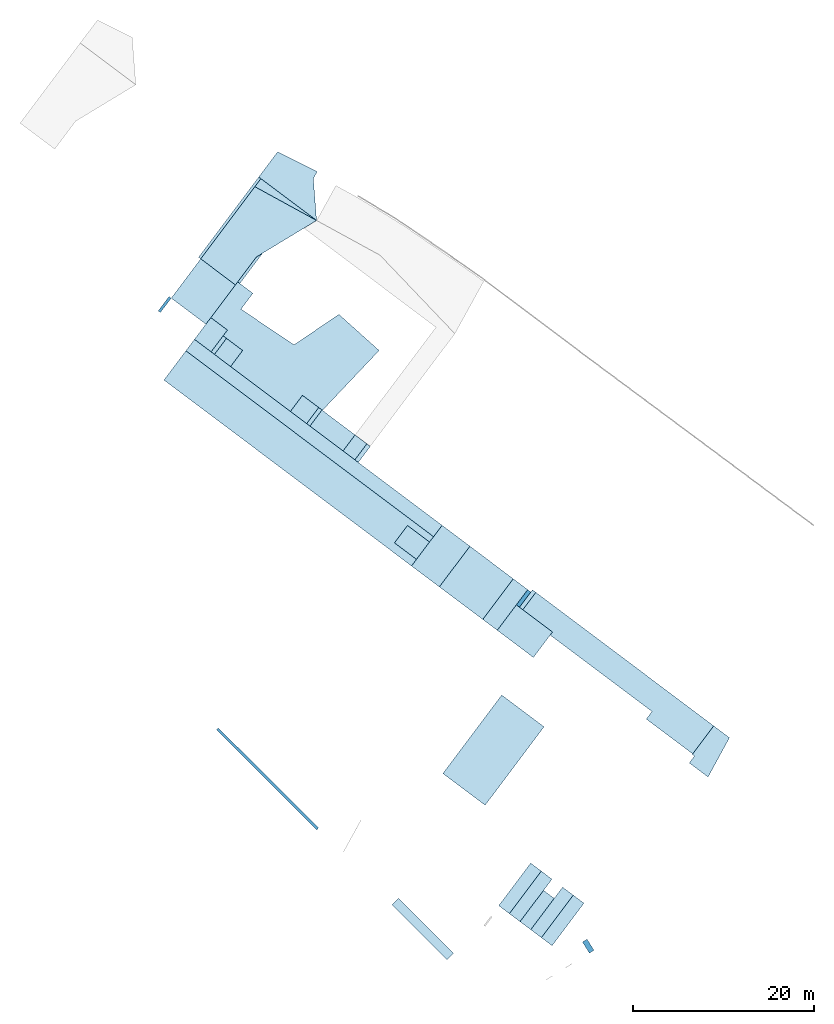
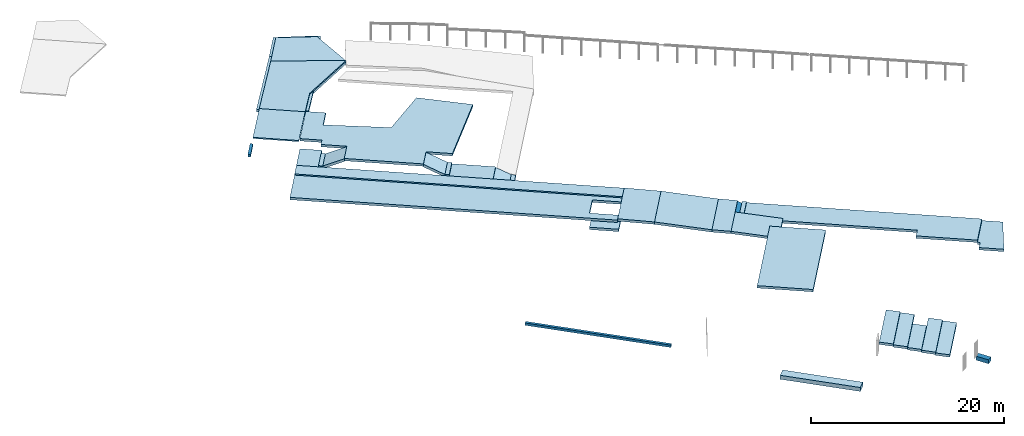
# One storey, part 11 of 12: 35 slabs.
"""IFC2X3 building model written with IfcOpenShell, lengths in metres."""

from ifc_helpers import new_model, entity, si_unit, converted_unit, derived_unit, direction, frame, frame_2d, origin, origin_2d_with_axis, place, context, subcontext, project, spatial, polyline, rectangle, outline, extrude, clip, halfspace, material, layer, layer_set, layer_usage, type_object, element, save


model = new_model("IFC2X3")

# Units and contexts
model_context = context("Model", 3, precision=1e-05, world=origin(), true_north=direction((6.123031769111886e-17, 1.0)))
body_context = subcontext(model_context, "Body", "Model", "MODEL_VIEW")
ifc_project = project(units=[si_unit("LENGTHUNIT", "METRE"), si_unit("AREAUNIT", "SQUARE_METRE"), si_unit("VOLUMEUNIT", "CUBIC_METRE"), converted_unit("PLANEANGLEUNIT", "DEGREE", entity("IfcRatioMeasure", 0.017453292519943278), si_unit("PLANEANGLEUNIT", "RADIAN"), dimensions=[0, 0, 0, 0, 0, 0, 0]), si_unit("MASSUNIT", "GRAM", prefix="KILO"), derived_unit("MASSDENSITYUNIT", [(si_unit("MASSUNIT", "GRAM", prefix="KILO"), 1), (si_unit("LENGTHUNIT", "METRE"), -3)]), derived_unit("IONCONCENTRATIONUNIT", [(si_unit("MASSUNIT", "GRAM", prefix="KILO"), 1), (si_unit("LENGTHUNIT", "METRE"), -3)]), derived_unit("MOMENTOFINERTIAUNIT", [(si_unit("LENGTHUNIT", "METRE"), 4)]), si_unit("TIMEUNIT", "SECOND"), si_unit("FREQUENCYUNIT", "HERTZ"), si_unit("THERMODYNAMICTEMPERATUREUNIT", "DEGREE_CELSIUS"), derived_unit("THERMALTRANSMITTANCEUNIT", [(si_unit("MASSUNIT", "GRAM", prefix="KILO"), 1), (si_unit("THERMODYNAMICTEMPERATUREUNIT", "KELVIN"), -1), (si_unit("TIMEUNIT", "SECOND"), -3)]), derived_unit("THERMALCONDUCTANCEUNIT", [(si_unit("MASSUNIT", "GRAM", prefix="KILO"), 1), (si_unit("THERMODYNAMICTEMPERATUREUNIT", "KELVIN"), -1), (si_unit("TIMEUNIT", "SECOND"), -3), (si_unit("LENGTHUNIT", "METRE"), 1)]), derived_unit("VOLUMETRICFLOWRATEUNIT", [(si_unit("LENGTHUNIT", "METRE"), 3), (si_unit("TIMEUNIT", "SECOND"), -1)]), derived_unit("MASSFLOWRATEUNIT", [(si_unit("MASSUNIT", "GRAM", prefix="KILO"), 1), (si_unit("TIMEUNIT", "SECOND"), -1)]), derived_unit("ROTATIONALFREQUENCYUNIT", [(si_unit("TIMEUNIT", "SECOND"), -1)]), si_unit("ELECTRICCURRENTUNIT", "AMPERE"), si_unit("ELECTRICVOLTAGEUNIT", "VOLT"), si_unit("POWERUNIT", "WATT"), si_unit("FORCEUNIT", "NEWTON", prefix="KILO"), si_unit("ILLUMINANCEUNIT", "LUX"), si_unit("LUMINOUSFLUXUNIT", "LUMEN"), si_unit("LUMINOUSINTENSITYUNIT", "CANDELA"), derived_unit("USERDEFINED", [(si_unit("MASSUNIT", "GRAM", prefix="KILO"), -1), (si_unit("LENGTHUNIT", "METRE"), -2), (si_unit("TIMEUNIT", "SECOND"), 3), (si_unit("LUMINOUSFLUXUNIT", "LUMEN"), 1)]), derived_unit("USERDEFINED", [(si_unit("MASSUNIT", "GRAM", prefix="KILO"), 1), (si_unit("TIMEUNIT", "SECOND"), -3), (si_unit("LENGTHUNIT", "METRE"), 3), (si_unit("ELECTRICCURRENTUNIT", "AMPERE"), -2)]), derived_unit("SOUNDPOWERUNIT", [(si_unit("MASSUNIT", "GRAM", prefix="KILO"), 1), (si_unit("TIMEUNIT", "SECOND"), -3), (si_unit("LENGTHUNIT", "METRE"), 2)]), derived_unit("SOUNDPRESSUREUNIT", [(si_unit("MASSUNIT", "GRAM", prefix="KILO"), 1), (si_unit("LENGTHUNIT", "METRE"), -1), (si_unit("TIMEUNIT", "SECOND"), -2)]), derived_unit("LINEARVELOCITYUNIT", [(si_unit("LENGTHUNIT", "METRE"), 1), (si_unit("TIMEUNIT", "SECOND"), -1)]), si_unit("PRESSUREUNIT", "PASCAL"), derived_unit("USERDEFINED", [(si_unit("MASSUNIT", "GRAM", prefix="KILO"), 1), (si_unit("LENGTHUNIT", "METRE"), -2), (si_unit("TIMEUNIT", "SECOND"), -2)]), derived_unit("LINEARFORCEUNIT", [(si_unit("MASSUNIT", "GRAM", prefix="KILO"), 1), (si_unit("TIMEUNIT", "SECOND"), -2)]), derived_unit("PLANARFORCEUNIT", [(si_unit("MASSUNIT", "GRAM", prefix="KILO"), 1), (si_unit("LENGTHUNIT", "METRE"), -1), (si_unit("TIMEUNIT", "SECOND"), -2)]), derived_unit("SPECIFICHEATCAPACITYUNIT", [(si_unit("THERMODYNAMICTEMPERATUREUNIT", "KELVIN"), -1), (si_unit("LENGTHUNIT", "METRE"), 2), (si_unit("TIMEUNIT", "SECOND"), -2)]), derived_unit("HEATINGVALUEUNIT", [(si_unit("LENGTHUNIT", "METRE"), 2), (si_unit("TIMEUNIT", "SECOND"), -2)]), derived_unit("VAPORPERMEABILITYUNIT", [(si_unit("LENGTHUNIT", "METRE"), -1), (si_unit("TIMEUNIT", "SECOND"), 1)]), derived_unit("DYNAMICVISCOSITYUNIT", [(si_unit("MASSUNIT", "GRAM", prefix="KILO"), 1), (si_unit("TIMEUNIT", "SECOND"), -1), (si_unit("LENGTHUNIT", "METRE"), -1)]), derived_unit("THERMALEXPANSIONCOEFFICIENTUNIT", [(si_unit("THERMODYNAMICTEMPERATUREUNIT", "KELVIN"), -1)]), derived_unit("MODULUSOFELASTICITYUNIT", [(si_unit("MASSUNIT", "GRAM", prefix="KILO"), 1), (si_unit("LENGTHUNIT", "METRE"), -1), (si_unit("TIMEUNIT", "SECOND"), -2)]), derived_unit("ISOTHERMALMOISTURECAPACITYUNIT", [(si_unit("LENGTHUNIT", "METRE"), 3), (si_unit("MASSUNIT", "GRAM", prefix="KILO"), -1)]), derived_unit("MOISTUREDIFFUSIVITYUNIT", [(si_unit("TIMEUNIT", "SECOND"), -1), (si_unit("LENGTHUNIT", "METRE"), 2)])], contexts=[model_context])

# Site, building, storey
site_placement = place(None, origin())
site = spatial("IfcSite", under=ifc_project, at=site_placement, Name="Superficie", CompositionType="ELEMENT")
building_placement = place(site_placement, frame((0.0, 0.0, 235.0), z_axis=(0.0, 0.0, 1.0), x_axis=(-0.7996477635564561, 0.6004693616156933, 0.0)))
building = spatial("IfcBuilding", under=site, at=building_placement, CompositionType="ELEMENT")
storey_placement = place(building_placement, frame((0.0, 0.0, -4.459999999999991)))
storey = spatial("IfcBuildingStorey", under=building, at=storey_placement, Name="PS1- Vestuari", CompositionType="ELEMENT", Elevation=-4.459999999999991)

# Slabs
ifc_material_1 = material(Name="_Topografia- Plataformes")
ifc_layer_1 = layer(ifc_material_1, 0.29999999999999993)
ifc_layer_set_1 = layer_set([ifc_layer_1], Name="Plataforma:300 mm")
ifc_layer_usage_1 = layer_usage(ifc_layer_set_1, "AXIS3", "POSITIVE", 0.0)
slab_type_1 = type_object("IfcSlabType", Name="Plataforma:300 mm", PredefinedType="FLOOR", material=ifc_layer_set_1)
slab_1_placement = place(storey_placement, origin())
element("IfcSlab", 1, at=slab_1_placement, inside=storey, type_object=slab_type_1, material=ifc_layer_usage_1, Name="Plataforma:300 mm", ObjectType="Plataforma:300 mm", PredefinedType="FLOOR", context=body_context, shape_type="SweptSolid", body=[
    extrude(outline(polyline([(-24.924999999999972, -2.0675000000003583), (9.324999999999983, -2.0675000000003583), (9.32499999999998, -1.157499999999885), (6.274999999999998, -1.1574999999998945), (6.274999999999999, 1.2425000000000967), (9.324999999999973, 1.2425000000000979), (9.32499999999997, 1.9825000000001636), (-24.924999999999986, 1.9825000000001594), (-24.924999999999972, -2.0675000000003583)])), frame((49.820147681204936, -38.48269175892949, -0.6499999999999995), z_axis=(0.0, 0.0, 1.0), x_axis=(-1.0, 0.0, 0.0)), (0.0, 0.0, 1.0), 0.2999999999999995),
])
slab_2_placement = place(storey_placement, origin())
element("IfcSlab", 2, at=slab_2_placement, inside=storey, type_object=slab_type_1, material=ifc_layer_usage_1, Name="Plataforma:300 mm", ObjectType="Plataforma:300 mm", PredefinedType="FLOOR", context=body_context, shape_type="SweptSolid", body=[
    extrude(outline(polyline([(-7.407363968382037, -1.0493705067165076), (-8.834956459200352, -6.811783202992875), (-8.841941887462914, -6.859278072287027), (0.06765017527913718, -8.810959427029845), (0.9613124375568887, -6.202928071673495), (3.061508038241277, -6.9225764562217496), (5.743247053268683, 0.9037128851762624), (3.643118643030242, 1.6233382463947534), (4.518338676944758, 4.177548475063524), (3.770995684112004, 4.4336313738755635), (4.516553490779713, 6.609440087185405), (-0.16822201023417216, 8.214714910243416), (-0.8489487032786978, 6.228106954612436), (1.2298998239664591, 5.5157733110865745), (-1.411190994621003, -1.0493705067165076), (-7.407363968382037, -1.0493705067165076)])), frame((67.0285263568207, -47.1803816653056, 0.7900000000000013), z_axis=(0.0, 0.0, -1.0), x_axis=(0.3241555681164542, 0.9460037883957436, 0.0)), (0.0, 0.0, -1.0), 0.30000000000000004),
])
slab_3_placement = place(storey_placement, origin())
element("IfcSlab", 3, at=slab_3_placement, inside=storey, type_object=slab_type_1, material=ifc_layer_usage_1, Name="Plataforma:300 mm", ObjectType="Plataforma:300 mm", PredefinedType="FLOOR", context=body_context, shape_type="SweptSolid", body=[
    extrude(rectangle(XDim=2.220072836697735, YDim=0.4739690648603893, at=origin_2d_with_axis()), frame((52.32335128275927, -43.15022636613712, -1.3499999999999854), z_axis=(0.0, 0.0, 1.0), x_axis=(0.0, -1.0, 0.0)), (0.0, 0.0, 1.0), 0.30000000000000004),
])
slab_4_placement = place(storey_placement, frame((71.84163854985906, -60.66937321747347, -0.101242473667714)))
element("IfcSlab", 4, at=slab_4_placement, inside=storey, type_object=slab_type_1, material=ifc_layer_usage_1, Name="Plataforma:300 mm", ObjectType="Plataforma:300 mm", PredefinedType="FLOOR", context=body_context, shape_type="SweptSolid", body=[
    extrude(outline(polyline([(2.5498951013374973, -11.133222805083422), (2.5498951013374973, 0.0), (-2.549895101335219, 0.0), (-2.549895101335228, -0.42370380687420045), (-2.8498951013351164, -0.42370380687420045), (-2.849895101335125, -4.624271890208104), (-5.453404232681, -11.133222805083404), (2.5498951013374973, -11.133222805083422)])), frame((5.453404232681, 11.089029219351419, 1.2921956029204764), z_axis=(0.0, -0.08901285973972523, 0.9960304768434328), x_axis=(1.0, 0.0, 0.0)), (0.0, -0.08901285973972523, -0.9960304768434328), 0.3011956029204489),
])
slab_5_placement = place(storey_placement, origin())
element("IfcSlab", 5, at=slab_5_placement, inside=storey, type_object=slab_type_1, material=ifc_layer_usage_1, Name="Plataforma:300 mm", ObjectType="Plataforma:300 mm", PredefinedType="FLOOR", context=body_context, shape_type="SweptSolid", body=[
    extrude(outline(polyline([(-3.39937513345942, -2.5532429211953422), (4.6039083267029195, -2.5532429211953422), (1.5291539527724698, 0.9470054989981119), (1.4073205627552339, 1.8102338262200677), (-0.741632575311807, 1.4246187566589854), (-3.3993751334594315, 0.9246277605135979), (-3.39937513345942, -2.5532429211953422)])), frame((76.44554687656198, -63.222616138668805, -0.09999999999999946), z_axis=(0.0, 0.0, 1.0), x_axis=(-1.0, 0.0, 0.0)), (0.0, 0.0, 1.0), 0.30000000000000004),
])
slab_6_placement = place(storey_placement, origin())
element("IfcSlab", 6, at=slab_6_placement, inside=storey, type_object=slab_type_1, material=ifc_layer_usage_1, Name="Plataforma:300 mm", ObjectType="Plataforma:300 mm", PredefinedType="FLOOR", context=body_context, shape_type="SweptSolid", body=[
    extrude(rectangle(XDim=3.01, YDim=2.2999999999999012, at=frame_2d((4.3298697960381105e-15, -4.3298697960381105e-15), x_axis=(1.0, 0.0))), frame((73.5951476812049, -43.54519175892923, -0.5), z_axis=(0.0, 0.0, 1.0), x_axis=(0.0, 1.0, 0.0)), (0.0, 0.0, 1.0), 0.30000000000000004),
])
slab_7_placement = place(storey_placement, frame((2.8451476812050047, -18.040191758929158, 2.3105622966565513)))
element("IfcSlab", 7, at=slab_7_placement, inside=storey, type_object=slab_type_1, material=ifc_layer_usage_1, Name="Plataforma:300 mm", ObjectType="Plataforma:300 mm", PredefinedType="FLOOR", context=body_context, shape_type="SweptSolid", body=[
    extrude(rectangle(XDim=5.8750000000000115, YDim=1.4807156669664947, at=frame_2d((0.7403578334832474, -0.7500000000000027), x_axis=(0.0, -1.0))), frame((0.0, 3.6875000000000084, 0.3009584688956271), z_axis=(-0.07974522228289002, 0.0, 0.9968152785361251), x_axis=(0.9968152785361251, 0.0, 0.07974522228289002)), (-0.07974522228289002, 0.0, -0.9968152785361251), 0.3009584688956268),
])
slab_8_placement = place(storey_placement, frame((4.321147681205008, -18.04019175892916, 2.5306422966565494)))
element("IfcSlab", 8, at=slab_8_placement, inside=storey, type_object=slab_type_1, material=ifc_layer_usage_1, Name="Plataforma:300 mm", ObjectType="Plataforma:300 mm", PredefinedType="FLOOR", context=body_context, shape_type="SweptSolid", body=[
    extrude(rectangle(XDim=5.8750000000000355, YDim=1.4807156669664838, at=frame_2d((0.7403578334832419, -0.7499999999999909), x_axis=(0.0, -1.0))), frame((0.0, 3.6875000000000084, 0.3009584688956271), z_axis=(-0.07974522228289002, 0.0, 0.9968152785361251), x_axis=(0.9968152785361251, 0.0, 0.07974522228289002)), (-0.07974522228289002, 0.0, -0.9968152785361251), 0.3009584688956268),
])
slab_9_placement = place(storey_placement, frame((5.797147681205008, -16.490191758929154, 2.750722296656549)))
element("IfcSlab", 9, at=slab_9_placement, inside=storey, type_object=slab_type_1, material=ifc_layer_usage_1, Name="Plataforma:300 mm", ObjectType="Plataforma:300 mm", PredefinedType="FLOOR", context=body_context, shape_type="SweptSolid", body=[
    extrude(rectangle(XDim=4.325000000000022, YDim=1.4807156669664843, at=frame_2d((0.7403578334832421, 0.0250000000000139), x_axis=(0.0, -1.0))), frame((0.0, 2.137499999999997, 0.30095846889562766), z_axis=(-0.07974522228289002, 0.0, 0.9968152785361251), x_axis=(0.9968152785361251, 0.0, 0.07974522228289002)), (-0.07974522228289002, 0.0, -0.9968152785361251), 0.3009584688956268),
])
slab_10_placement = place(storey_placement, frame((7.273147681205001, -18.04019175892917, 2.970802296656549)))
element("IfcSlab", 10, at=slab_10_placement, inside=storey, type_object=slab_type_1, material=ifc_layer_usage_1, Name="Plataforma:300 mm", ObjectType="Plataforma:300 mm", PredefinedType="FLOOR", context=body_context, shape_type="SweptSolid", body=[
    extrude(rectangle(XDim=5.875000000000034, YDim=1.4807156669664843, at=frame_2d((0.7403578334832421, -0.7499999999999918), x_axis=(0.0, -1.0))), frame((0.0, 3.6875000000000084, 0.3009584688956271), z_axis=(-0.07974522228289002, 0.0, 0.9968152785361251), x_axis=(0.9968152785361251, 0.0, 0.07974522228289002)), (-0.07974522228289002, 0.0, -0.9968152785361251), 0.3009584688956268),
])
slab_11_placement = place(storey_placement, frame((8.749147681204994, -18.040191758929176, 3.1908822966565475)))
element("IfcSlab", 11, at=slab_11_placement, inside=storey, type_object=slab_type_1, material=ifc_layer_usage_1, Name="Plataforma:300 mm", ObjectType="Plataforma:300 mm", PredefinedType="FLOOR", context=body_context, shape_type="SweptSolid", body=[
    extrude(rectangle(XDim=5.8750000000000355, YDim=1.4807156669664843, at=frame_2d((0.7403578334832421, -0.7499999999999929), x_axis=(0.0, -1.0))), frame((0.0, 3.6875000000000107, 0.3009584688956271), z_axis=(-0.07974522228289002, 0.0, 0.9968152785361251), x_axis=(0.9968152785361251, 0.0, 0.07974522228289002)), (-0.07974522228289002, 0.0, -0.9968152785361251), 0.3009584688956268),
])
slab_12_placement = place(storey_placement, origin())
element("IfcSlab", 12, at=slab_12_placement, inside=storey, type_object=slab_type_1, material=ifc_layer_usage_1, Name="Plataforma:300 mm", ObjectType="Plataforma:300 mm", PredefinedType="FLOOR", context=body_context, shape_type="SweptSolid", body=[
    extrude(rectangle(XDim=10.849012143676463, YDim=5.850000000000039, at=origin_2d_with_axis()), frame((21.020147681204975, -25.56469783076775, 3.759999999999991), z_axis=(0.0, 0.0, 1.0), x_axis=(0.0, 1.0, 0.0)), (0.0, 0.0, 1.0), 0.30000000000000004),
])
slab_13_placement = place(storey_placement, frame((23.644805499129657, -39.940191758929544, -1.4709583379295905)))
element("IfcSlab", 13, at=slab_13_placement, inside=storey, type_object=slab_type_1, material=ifc_layer_usage_1, Name="Plataforma:300 mm", ObjectType="Plataforma:300 mm", PredefinedType="FLOOR", context=body_context, shape_type="SweptSolid", body=[
    extrude(rectangle(XDim=3.525000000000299, YDim=5.016315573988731, at=frame_2d((2.5081577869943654, -0.12499999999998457), x_axis=(0.0, -1.0))), frame((0.0, 1.887500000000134, 0.3009583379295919), z_axis=(-0.0797397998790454, 0.0, 0.99681571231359), x_axis=(0.99681571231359, 0.0, 0.0797397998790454)), (-0.0797397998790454, 0.0, -0.99681571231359), 0.30095833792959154),
])
slab_14_placement = place(storey_placement, frame((30.645147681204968, -42.04018994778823, -1.0409584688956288)))
element("IfcSlab", 14, at=slab_14_placement, inside=storey, type_object=slab_type_1, material=ifc_layer_usage_1, Name="Plataforma:300 mm", ObjectType="Plataforma:300 mm", PredefinedType="FLOOR", context=body_context, shape_type="SweptSolid", body=[
    extrude(rectangle(XDim=5.624998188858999, YDim=6.01916937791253, at=frame_2d((3.009584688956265, 1.7875009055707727), x_axis=(0.0, -1.0))), frame((0.0, 1.024998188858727, 0.30095846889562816), z_axis=(-0.07974522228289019, 0.0, 0.9968152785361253), x_axis=(0.9968152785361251, 0.0, 0.07974522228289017)), (-0.07974522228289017, 0.0, -0.9968152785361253), 0.3009584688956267),
])
slab_15_placement = place(storey_placement, frame((28.645147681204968, -42.040189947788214, -1.0700337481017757)))
element("IfcSlab", 15, at=slab_15_placement, inside=storey, type_object=slab_type_1, material=ifc_layer_usage_1, Name="Plataforma:300 mm", ObjectType="Plataforma:300 mm", PredefinedType="FLOOR", context=body_context, shape_type="SweptSolid", body=[
    extrude(rectangle(XDim=2.0002249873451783, YDim=5.624998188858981, at=frame_2d((1.0001124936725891, 1.8595009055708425), x_axis=(-1.0, 0.0))), frame((0.0, 0.9529981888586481, 0.3000337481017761), z_axis=(-0.014998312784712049, 0.0, 0.9998875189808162), x_axis=(0.9998875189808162, 0.0, 0.014998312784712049)), (-0.014998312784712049, 0.0, -0.9998875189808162), 0.30003374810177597),
])
slab_16_placement = place(storey_placement, frame((36.64514768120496, -42.04018994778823, -0.5580599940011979)))
element("IfcSlab", 16, at=slab_16_placement, inside=storey, type_object=slab_type_1, material=ifc_layer_usage_1, Name="Plataforma:300 mm", ObjectType="Plataforma:300 mm", PredefinedType="FLOOR", context=body_context, shape_type="SweptSolid", body=[
    extrude(rectangle(XDim=3.850769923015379, YDim=5.624998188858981, at=frame_2d((1.9253849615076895, 0.15000090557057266), x_axis=(-1.0, 0.0))), frame((0.0, 2.6624981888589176, 0.30005999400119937), z_axis=(-0.019996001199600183, 0.0, 0.999800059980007), x_axis=(0.999800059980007, 0.0, 0.019996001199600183)), (-0.019996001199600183, 0.0, -0.999800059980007), 0.30005999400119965),
])
slab_17_placement = place(storey_placement, origin())
element("IfcSlab", 17, at=slab_17_placement, inside=storey, type_object=slab_type_1, material=ifc_layer_usage_1, Name="Plataforma:300 mm", ObjectType="Plataforma:300 mm", PredefinedType="FLOOR", context=body_context, shape_type="SweptSolid", body=[
    extrude(rectangle(XDim=0.46392871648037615, YDim=2.39999999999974, at=frame_2d((2.1649348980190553e-15, 4.3298697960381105e-15), x_axis=(1.0, 0.0))), frame((27.977112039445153, -41.14019175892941, -1.3499999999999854), z_axis=(0.0, 0.0, 1.0), x_axis=(-1.0, 0.0, 0.0)), (0.0, 0.0, 1.0), 0.30000000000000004),
])
slab_18_placement = place(storey_placement, frame((28.20907639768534, -42.040191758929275, -1.3823799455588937)))
element("IfcSlab", 18, at=slab_18_placement, inside=storey, type_object=slab_type_1, material=ifc_layer_usage_1, Name="Plataforma:300 mm", ObjectType="Plataforma:300 mm", PredefinedType="FLOOR", context=body_context, shape_type="SweptSolid", body=[
    extrude(rectangle(XDim=0.4831378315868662, YDim=2.0999999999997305, at=frame_2d((0.2415689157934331, 0.02500000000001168), x_axis=(1.0, 0.0))), frame((0.0, 1.0249999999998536, 0.3323799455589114), z_axis=(-0.430518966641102, 0.0, 0.9025815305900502), x_axis=(0.9025815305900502, 0.0, 0.430518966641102)), (-0.430518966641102, 0.0, -0.9025815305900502), 0.33237994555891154),
])
slab_19_placement = place(storey_placement, origin())
element("IfcSlab", 19, at=slab_19_placement, inside=storey, type_object=slab_type_1, material=ifc_layer_usage_1, Name="Plataforma:300 mm", ObjectType="Plataforma:300 mm", PredefinedType="FLOOR", context=body_context, shape_type="SweptSolid", body=[
    extrude(outline(polyline([(-0.9461767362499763, 1.0001349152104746), (-0.9461767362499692, -2.9500674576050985), (1.2342749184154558, -2.9500674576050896), (1.9504320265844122, 1.949932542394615), (-0.6461767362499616, 1.9499325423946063), (-0.6461767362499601, 1.0001349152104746), (-0.9461767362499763, 1.0001349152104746)])), frame((2.1989709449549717, -39.390124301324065, -1.6700000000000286), z_axis=(0.0, 0.0, -1.0), x_axis=(-1.0, 0.0, 0.0)), (0.0, 0.0, -1.0), 0.30000000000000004),
])
slab_20_placement = place(storey_placement, origin())
element("IfcSlab", 20, at=slab_20_placement, inside=storey, type_object=slab_type_1, material=ifc_layer_usage_1, Name="Plataforma:300 mm", ObjectType="Plataforma:300 mm", PredefinedType="FLOOR", context=body_context, shape_type="SweptSolid", body=[
    extrude(outline(polyline([(0.5551011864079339, 6.467414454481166), (1.5951011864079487, 6.467414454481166), (1.5951011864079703, 12.87741445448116), (-2.27510118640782, 12.87741445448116), (-2.27510118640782, -11.722585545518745), (0.12489881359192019, -11.722585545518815), (0.12489881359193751, -7.622243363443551), (0.5551011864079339, -7.622243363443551), (0.5551011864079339, 6.467414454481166)])), frame((16.022562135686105, -40.06509057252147, -1.4699999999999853), z_axis=(0.0, 0.0, 1.0), x_axis=(0.0, 1.0, 0.0)), (0.0, 0.0, 1.0), 0.30000000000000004),
])
slab_21_placement = place(storey_placement, origin())
element("IfcSlab", 21, at=slab_21_placement, inside=storey, type_object=slab_type_1, material=ifc_layer_usage_1, Name="Plataforma:300 mm", ObjectType="Plataforma:300 mm", PredefinedType="FLOOR", context=body_context, shape_type="SweptSolid", body=[
    extrude(rectangle(XDim=34.250000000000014, YDim=1.57499999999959, at=origin_2d_with_axis()), frame((57.62014768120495, -41.25269175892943, -0.5), z_axis=(0.0, 0.0, 1.0), x_axis=(-1.0, 0.0, 0.0)), (0.0, 0.0, 1.0), 0.30000000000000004),
])
slab_22_placement = place(storey_placement, origin())
element("IfcSlab", 22, at=slab_22_placement, inside=storey, type_object=slab_type_1, material=ifc_layer_usage_1, Name="Plataforma:300 mm", ObjectType="Plataforma:300 mm", PredefinedType="FLOOR", context=body_context, shape_type="SweptSolid", body=[
    extrude(rectangle(XDim=2.399999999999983, YDim=3.049999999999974, at=frame_2d((0.0, -4.3298697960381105e-15), x_axis=(1.0, 0.0))), frame((42.02014768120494, -38.525191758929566, -2.4399999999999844), z_axis=(0.0, 0.0, 1.0), x_axis=(0.0, 1.0, 0.0)), (0.0, 0.0, 1.0), 0.30000000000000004),
])
slab_23_placement = place(storey_placement, origin())
element("IfcSlab", 23, at=slab_23_placement, inside=storey, type_object=slab_type_1, material=ifc_layer_usage_1, Name="Plataforma:300 mm", ObjectType="Plataforma:300 mm", PredefinedType="FLOOR", context=body_context, shape_type="SweptSolid", body=[
    extrude(rectangle(XDim=2.2200728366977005, YDim=4.577000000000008, at=frame_2d((0.0, 4.440892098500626e-15), x_axis=(1.0, 0.0))), frame((56.483647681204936, -43.150226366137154, -0.49999999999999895), z_axis=(0.0, 0.0, 1.0), x_axis=(0.0, -1.0, 0.0)), (0.0, 0.0, 1.0), 0.2999999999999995),
])
slab_24_placement = place(storey_placement, frame((52.56033581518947, -44.26026278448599, -1.3822392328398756)))
element("IfcSlab", 24, at=slab_24_placement, inside=storey, type_object=slab_type_1, material=ifc_layer_usage_1, Name="Plataforma:300 mm", ObjectType="Plataforma:300 mm", PredefinedType="FLOOR", context=body_context, shape_type="SweptSolid", body=[
    extrude(rectangle(XDim=1.810495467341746, YDim=2.220072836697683, at=frame_2d((0.905247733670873, 0.0), x_axis=(-1.0, 0.0))), frame((0.0, 1.1100364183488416, 0.33223923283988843), z_axis=(-0.42971662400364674, 0.0, 0.9029637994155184), x_axis=(0.9029637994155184, 0.0, 0.42971662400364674)), (-0.42971662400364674, 0.0, -0.9029637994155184), 0.3322392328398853),
])
slab_25_placement = place(storey_placement, frame((59.23031813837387, -44.26026278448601, -0.3834636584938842)))
element("IfcSlab", 25, at=slab_25_placement, inside=storey, type_object=slab_type_1, material=ifc_layer_usage_1, Name="Plataforma:300 mm", ObjectType="Plataforma:300 mm", PredefinedType="FLOOR", context=body_context, shape_type="SweptSolid", body=[
    extrude(rectangle(XDim=2.491895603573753, YDim=2.220072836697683, at=frame_2d((1.2459478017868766, 0.0), x_axis=(-1.0, 0.0))), frame((0.0, 1.1100364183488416, 0.33346365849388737), z_axis=(-0.4366154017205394, 0.0, 0.899648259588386), x_axis=(0.899648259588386, 0.0, 0.4366154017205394)), (-0.4366154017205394, 0.0, -0.899648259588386), 0.33346365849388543),
])
slab_26_placement = place(storey_placement, origin())
element("IfcSlab", 26, at=slab_26_placement, inside=storey, type_object=slab_type_1, material=ifc_layer_usage_1, Name="Plataforma:300 mm", ObjectType="Plataforma:300 mm", PredefinedType="FLOOR", context=body_context, shape_type="SweptSolid", body=[
    extrude(rectangle(XDim=0.45817045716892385, YDim=2.2200728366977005, at=origin_2d_with_axis()), frame((59.00123290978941, -43.150226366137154, -0.35000000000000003), z_axis=(0.0, 0.0, 1.0), x_axis=(-1.0, 0.0, 0.0)), (0.0, 0.0, 1.0), 0.30000000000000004),
])
slab_27_placement = place(storey_placement, frame((69.74514768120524, -44.26026278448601, -0.3834636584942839)))
element("IfcSlab", 27, at=slab_27_placement, inside=storey, type_object=slab_type_1, material=ifc_layer_usage_1, Name="Plataforma:300 mm", ObjectType="Plataforma:300 mm", PredefinedType="FLOOR", context=body_context, shape_type="SweptSolid", body=[
    extrude(rectangle(XDim=2.220072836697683, YDim=2.491895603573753, at=frame_2d((-1.2459478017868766, 0.0), x_axis=(0.0, -1.0))), frame((2.2418295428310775, 1.1100364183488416, 0.3334636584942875), z_axis=(-0.4366154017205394, 0.0, -0.899648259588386), x_axis=(0.899648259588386, 0.0, -0.4366154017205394)), (0.4366154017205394, 0.0, 0.899648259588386), 0.33346365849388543),
])
slab_28_placement = place(storey_placement, origin())
element("IfcSlab", 28, at=slab_28_placement, inside=storey, type_object=slab_type_1, material=ifc_layer_usage_1, Name="Plataforma:300 mm", ObjectType="Plataforma:300 mm", PredefinedType="FLOOR", context=body_context, shape_type="SweptSolid", body=[
    extrude(rectangle(XDim=2.2200728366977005, YDim=0.45817045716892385, at=origin_2d_with_axis()), frame((72.21606245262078, -43.150226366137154, -0.3500000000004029), z_axis=(0.0, 0.0, 1.0), x_axis=(0.0, -1.0, 0.0)), (0.0, 0.0, 1.0), 0.30000000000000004),
])
slab_29_placement = place(storey_placement, origin())
element("IfcSlab", 29, at=slab_29_placement, inside=storey, type_object=slab_type_1, material=ifc_layer_usage_1, Name="Plataforma:300 mm", ObjectType="Plataforma:300 mm", PredefinedType="FLOOR", context=body_context, shape_type="SweptSolid", body=[
    extrude(outline(polyline([(-1.240178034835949, -7.751396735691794), (-0.9371904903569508, -7.751396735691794), (1.237247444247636, 7.730531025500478), (0.9401210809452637, 7.772262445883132), (-1.240178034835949, -7.751396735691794)])), frame((39.084756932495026, -8.020100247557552, 4.879999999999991), z_axis=(0.0, 0.0, 1.0), x_axis=(0.0, -1.0, 0.0)), (0.0, 0.0, 1.0), 0.29999999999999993),
])
slab_30_placement = place(storey_placement, origin())
element("IfcSlab", 30, at=slab_30_placement, inside=storey, type_object=slab_type_1, material=ifc_layer_usage_1, Name="Plataforma:300 mm", ObjectType="Plataforma:300 mm", PredefinedType="FLOOR", context=body_context, shape_type="SweptSolid", body=[
    extrude(rectangle(XDim=0.29999999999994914, YDim=1.9929029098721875, at=frame_2d((-8.659739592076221e-15, 0.0), x_axis=(1.0, 0.0))), frame((79.69492201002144, -43.14374030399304, 0.35999999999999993), z_axis=(0.0, 0.0, 1.0), x_axis=(-1.0, 0.0, 0.0)), (0.0, 0.0, 1.0), 0.30000000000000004),
])
ifc_material_2 = material(Name="_Saulo T1- PAV")
ifc_layer_2 = layer(ifc_material_2, 0.14999999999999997)
ifc_layer_set_2 = layer_set([ifc_layer_2], Name="Suelo:PAV- Saulo- 15 cm- T1")
ifc_layer_usage_2 = layer_usage(ifc_layer_set_2, "AXIS3", "POSITIVE", 0.0)
slab_type_2 = type_object("IfcSlabType", Name="Suelo:PAV- Saulo- 15 cm- T1", PredefinedType="FLOOR", material=ifc_layer_set_2)
slab_31_placement = place(storey_placement, origin())
element("IfcSlab", 31, at=slab_31_placement, inside=storey, type_object=slab_type_2, material=ifc_layer_usage_2, Name="Suelo:PAV- Saulo- 15 cm- T1", ObjectType="Suelo:PAV- Saulo- 15 cm- T1", PredefinedType="FLOOR", context=body_context, shape_type="SweptSolid", body=[
    clip(clip(extrude(outline(polyline([(-3.0431708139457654, -2.8703909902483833), (1.2462156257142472, -2.8703909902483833), (1.7019700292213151, -0.4492264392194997), (2.0262175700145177, 1.3566148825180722), (-1.931232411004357, 4.833393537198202), (-3.0431708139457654, -2.8703909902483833)])), frame((76.67471771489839, -62.60106101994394, 0.38577329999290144), z_axis=(0.011405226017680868, 0.010018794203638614, -0.9998847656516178), x_axis=(0.0, -0.9999498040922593, -0.01001944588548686)), (0.01001944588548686, 0.011404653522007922, 0.9998847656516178), 0.15003457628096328), halfspace(frame((79.54492201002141, -59.55837097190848, 0.2989827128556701), z_axis=(0.011405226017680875, 0.01001879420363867, -0.9998847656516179), x_axis=(-0.7512083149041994, -0.6598906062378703, -0.015180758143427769)), False)), halfspace(frame((79.54492201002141, -59.55837097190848, 0.4490000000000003), z_axis=(-0.011405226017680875, -0.01001879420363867, 0.9998847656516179), x_axis=(0.7512083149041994, 0.6598906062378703, 0.015180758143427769)), False)),
])
slab_32_placement = place(storey_placement, origin())
element("IfcSlab", 32, at=slab_32_placement, inside=storey, type_object=slab_type_2, material=ifc_layer_usage_2, Name="Suelo:PAV- Saulo- 15 cm- T1", ObjectType="Suelo:PAV- Saulo- 15 cm- T1", PredefinedType="FLOOR", context=body_context, shape_type="SweptSolid", body=[
    clip(clip(extrude(outline(polyline([(-5.005053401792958, -3.4605664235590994), (5.012739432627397, -3.4605664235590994), (6.128169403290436, 4.242717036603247), (-1.1308020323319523, 1.3392079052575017), (-5.005053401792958, 1.339207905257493), (-5.005053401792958, -3.4605664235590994)])), frame((76.08435558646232, -54.56552972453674, 0.8954858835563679), z_axis=(0.0, 0.08901285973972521, -0.9960304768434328), x_axis=(0.0, -0.9960304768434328, -0.08901285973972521)), (0.08901285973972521, 0.0, 0.9960304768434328), 0.15119798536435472), halfspace(frame((76.24493788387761, -60.66937321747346, 0.1994021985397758), z_axis=(0.0, 0.08901285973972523, -0.9960304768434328), x_axis=(0.0, 0.9960304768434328, 0.08901285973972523)), False)), halfspace(frame((76.24493788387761, -60.66937321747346, 0.35000000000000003), z_axis=(0.0, -0.08901285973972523, 0.9960304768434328), x_axis=(0.0, -0.9960304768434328, -0.08901285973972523)), False)),
])
slab_33_placement = place(storey_placement, origin())
element("IfcSlab", 33, at=slab_33_placement, inside=storey, type_object=slab_type_2, material=ifc_layer_usage_2, Name="Suelo:PAV- Saulo- 15 cm- T1", ObjectType="Suelo:PAV- Saulo- 15 cm- T1", PredefinedType="FLOOR", context=body_context, shape_type="SweptSolid", body=[
    clip(clip(extrude(rectangle(XDim=5.441521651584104, YDim=4.799774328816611, at=frame_2d((-4.440892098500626e-15, 0.0), x_axis=(1.0, 0.0))), frame((77.14503484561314, -46.860433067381, 1.4090000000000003), z_axis=(0.0, 0.024993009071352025, -0.9996876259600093), x_axis=(0.0, 0.9996876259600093, 0.024993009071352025)), (-0.024993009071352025, 0.0, 0.9996876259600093), 0.15009375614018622), halfspace(frame((76.24493788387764, -49.58034399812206, 1.1909531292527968), z_axis=(0.0, 0.024993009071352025, -0.9996876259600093), x_axis=(0.0, 0.9996876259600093, 0.024993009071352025)), False)), halfspace(frame((76.24493788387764, -49.58034399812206, 1.341), z_axis=(0.0, -0.024993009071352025, 0.9996876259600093), x_axis=(0.0, -0.9996876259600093, -0.024993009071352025)), False)),
])
ifc_material_3 = material(Name="_Formigó- T1- STR")
slab_type_3 = type_object("IfcSlabType", Name="STR- S- Formigó- Mp5:STR- S- Formigó- Mp5", PredefinedType="BASESLAB", material=ifc_material_3)
slab_34_placement = place(storey_placement, frame((11.067832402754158, -6.139615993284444, 2.979999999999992)))
element("IfcSlab", 34, at=slab_34_placement, inside=storey, type_object=slab_type_3, Name="STR- S- Formigó- Mp5:STR- S- Formigó- Mp5", ObjectType="STR- S- Formigó- Mp5:STR- S- Formigó- Mp5", PredefinedType="BASESLAB", context=body_context, shape_type="SweptSolid", body=[
    extrude(rectangle(XDim=8.6, YDim=0.9999999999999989, at=frame_2d((-8.881784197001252e-16, -1.1102230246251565e-16), x_axis=(1.0, 0.0))), frame((4.327748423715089, 1.0932055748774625, 0.0), z_axis=(0.0, 0.0, 1.0), x_axis=(-0.9902804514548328, 0.13908496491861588, 0.0)), (0.0, 0.0, 1.0), 0.4999999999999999),
])
slab_type_4 = type_object("IfcSlabType", Name="STR- Sabata- Unio sabata MP1:STR- Sabata- Unio sabata MP1", PredefinedType="BASESLAB", material=ifc_material_3)
slab_35_placement = place(storey_placement, frame((-1.1667254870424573, -15.064560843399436, 0.5350000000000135)))
element("IfcSlab", 35, at=slab_35_placement, inside=storey, type_object=slab_type_4, Name="STR- Sabata- Unio sabata MP1:STR- Sabata- Unio sabata MP1", ObjectType="STR- Sabata- Unio sabata MP1:STR- Sabata- Unio sabata MP1", PredefinedType="BASESLAB", context=body_context, shape_type="SweptSolid", body=[
    extrude(rectangle(XDim=1.4500000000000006, YDim=0.6000000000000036, at=frame_2d((-2.7755575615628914e-16, -1.2490009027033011e-15), x_axis=(1.0, 0.0))), frame((0.784403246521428, 0.5412772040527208, 0.0), z_axis=(0.0, 0.0, 1.0), x_axis=(0.932704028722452, -0.3606427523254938, 0.0)), (0.0, 0.0, 1.0), 0.49999999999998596),
])

save(model, "model.ifc")
